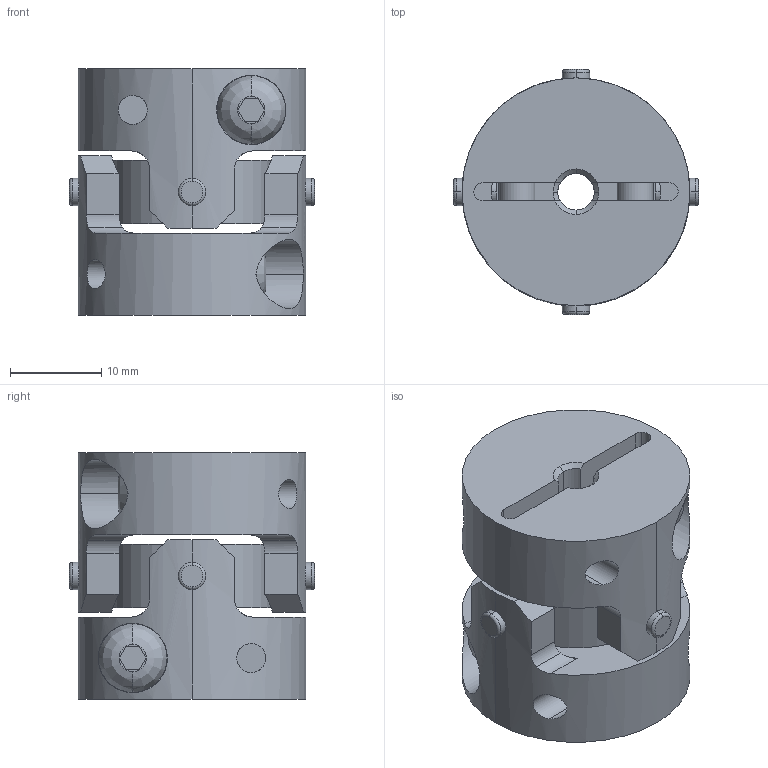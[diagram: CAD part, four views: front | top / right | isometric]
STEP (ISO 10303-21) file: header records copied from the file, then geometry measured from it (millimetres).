
FILE_DESCRIPTION((''),'2;1');
FILE_NAME('UA-25C-4×4.stp','2013-11-12T14:16:07',(''),(''),'AutoCAD STEP 2000i','AutoCAD 2000i',', , ');
FILE_SCHEMA(('CONFIG_CONTROL_DESIGN'));
Length unit declared in the file: millimetre
Products named in the file (6): UA-25C-5×5; 忣兜1; UA-2502-D05-1; BTN-M4; UA-2502-D05; UA25-SEN
Assembly tree (6 placements, depth 3):
  UA-25C-5×5
    忣兜1
    UA-2502-D05-1
      BTN-M4
    UA-2502-D05
      BTN-M4
    UA25-SEN
Bounding box: 26.89 x 26.89 x 27 mm (x, y, z)
Volume: 9580.7 mm3; surface area: 6514.5 mm2
Topology: 1 solids, 1 shells, 206 faces, 554 edges, 364 vertices
Faces by surface type: cylinder 96, plane 78, cone 16, bspline 8, torus 8
Entity records: 8291 total; most frequent: CARTESIAN_POINT 2975, ORIENTED_EDGE 1108, DIRECTION 1064, EDGE_CURVE 554, AXIS2_PLACEMENT_3D 409, VERTEX_POINT 364, VECTOR 246, LINE 246
